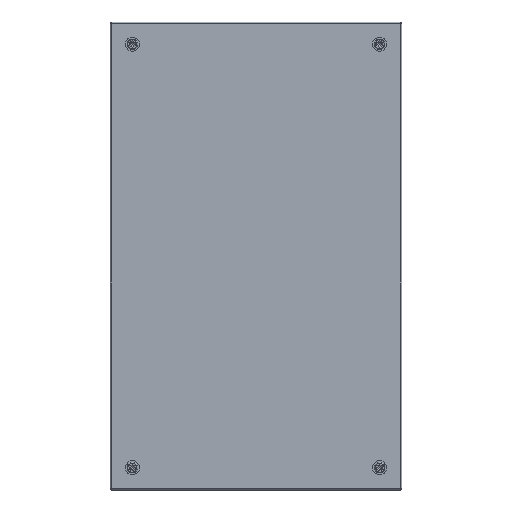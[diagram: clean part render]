
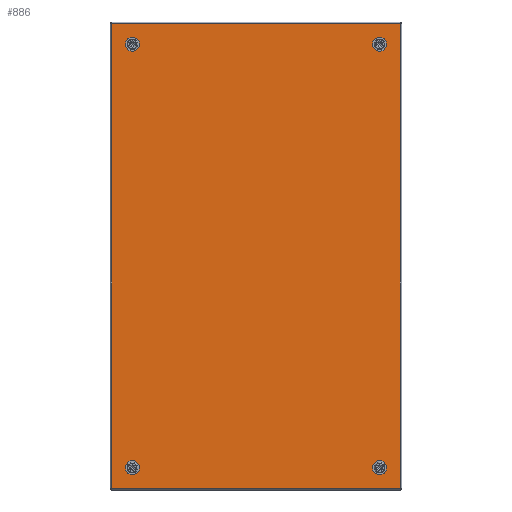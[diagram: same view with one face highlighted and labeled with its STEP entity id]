
A CAD part, top view. The second image highlights one B-rep face of the part: STEP entity #886.
In plain terms, the highlighted planar face has unit normal (0, 0, 1).
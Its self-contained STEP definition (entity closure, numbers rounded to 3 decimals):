
#886=ADVANCED_FACE('',(#4244,#4246,#4248,#4250,#4252),#4254,.T.);
#4244=FACE_BOUND('',#4245,.T.);
#4245=EDGE_LOOP('',(#12534,#12535,#12536,#12537));
#4246=FACE_BOUND('',#4247,.T.);
#4247=EDGE_LOOP('',(#12538));
#4248=FACE_BOUND('',#4249,.T.);
#4249=EDGE_LOOP('',(#12539));
#4250=FACE_BOUND('',#4251,.T.);
#4251=EDGE_LOOP('',(#12540));
#4252=FACE_BOUND('',#4253,.T.);
#4253=EDGE_LOOP('',(#12541));
#4254=PLANE('',#4255);
#4255=AXIS2_PLACEMENT_3D('',#4256,#4257,#4258);
#4256=CARTESIAN_POINT('',(0.,0.,0.));
#4257=DIRECTION('',(0.,0.,1.));
#4258=DIRECTION('',(0.,1.,0.));
#12534=ORIENTED_EDGE('',*,*,#17104,.T.);
#12535=ORIENTED_EDGE('',*,*,#17048,.T.);
#12536=ORIENTED_EDGE('',*,*,#17105,.T.);
#12537=ORIENTED_EDGE('',*,*,#17064,.T.);
#12538=ORIENTED_EDGE('',*,*,#17106,.T.);
#12539=ORIENTED_EDGE('',*,*,#17107,.T.);
#12540=ORIENTED_EDGE('',*,*,#17108,.T.);
#12541=ORIENTED_EDGE('',*,*,#17109,.T.);
#17048=EDGE_CURVE('',#20451,#20449,#20452,.T.);
#17064=EDGE_CURVE('',#20475,#20473,#20476,.T.);
#17104=EDGE_CURVE('',#20473,#20451,#20538,.T.);
#17105=EDGE_CURVE('',#20449,#20475,#20539,.T.);
#17106=EDGE_CURVE('',#20540,#20540,#20541,.F.);
#17107=EDGE_CURVE('',#20542,#20542,#20543,.F.);
#17108=EDGE_CURVE('',#20544,#20544,#20545,.F.);
#17109=EDGE_CURVE('',#20546,#20546,#20547,.F.);
#20449=VERTEX_POINT('',#26933);
#20451=VERTEX_POINT('',#26938);
#20452=LINE('',#26939,#26940);
#20473=VERTEX_POINT('',#26997);
#20475=VERTEX_POINT('',#27002);
#20476=LINE('',#27003,#27004);
#20538=LINE('',#27169,#27170);
#20539=LINE('',#27172,#27173);
#20540=VERTEX_POINT('',#27175);
#20541=CIRCLE('',#27176,8.);
#20542=VERTEX_POINT('',#27180);
#20543=CIRCLE('',#27181,8.);
#20544=VERTEX_POINT('',#27185);
#20545=CIRCLE('',#27186,8.);
#20546=VERTEX_POINT('',#27190);
#20547=CIRCLE('',#27191,8.);
#26933=CARTESIAN_POINT('',(245.7,-395.7,0.));
#26938=CARTESIAN_POINT('',(-245.7,-395.7,0.));
#26939=CARTESIAN_POINT('',(-245.7,-395.7,0.));
#26940=VECTOR('',#26941,1.);
#26941=DIRECTION('',(1.,0.,0.));
#26997=CARTESIAN_POINT('',(-245.7,395.7,0.));
#27002=CARTESIAN_POINT('',(245.7,395.7,0.));
#27003=CARTESIAN_POINT('',(245.7,395.7,0.));
#27004=VECTOR('',#27005,1.);
#27005=DIRECTION('',(-1.,0.,0.));
#27169=CARTESIAN_POINT('',(-245.7,395.7,0.));
#27170=VECTOR('',#27171,1.);
#27171=DIRECTION('',(0.,-1.,0.));
#27172=CARTESIAN_POINT('',(245.7,-395.7,0.));
#27173=VECTOR('',#27174,1.);
#27174=DIRECTION('',(0.,1.,0.));
#27175=CARTESIAN_POINT('',(210.5,368.5,0.));
#27176=AXIS2_PLACEMENT_3D('',#27177,#27178,#27179);
#27177=CARTESIAN_POINT('',(210.5,360.5,0.));
#27178=DIRECTION('',(0.,0.,1.));
#27179=DIRECTION('',(0.,1.,0.));
#27180=CARTESIAN_POINT('',(210.5,-352.5,0.));
#27181=AXIS2_PLACEMENT_3D('',#27182,#27183,#27184);
#27182=CARTESIAN_POINT('',(210.5,-360.5,0.));
#27183=DIRECTION('',(0.,0.,1.));
#27184=DIRECTION('',(0.,1.,0.));
#27185=CARTESIAN_POINT('',(-210.5,368.5,0.));
#27186=AXIS2_PLACEMENT_3D('',#27187,#27188,#27189);
#27187=CARTESIAN_POINT('',(-210.5,360.5,0.));
#27188=DIRECTION('',(0.,0.,1.));
#27189=DIRECTION('',(0.,1.,0.));
#27190=CARTESIAN_POINT('',(-210.5,-352.5,0.));
#27191=AXIS2_PLACEMENT_3D('',#27192,#27193,#27194);
#27192=CARTESIAN_POINT('',(-210.5,-360.5,0.));
#27193=DIRECTION('',(0.,0.,1.));
#27194=DIRECTION('',(0.,1.,0.));
